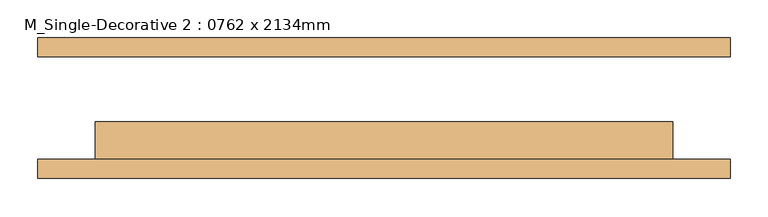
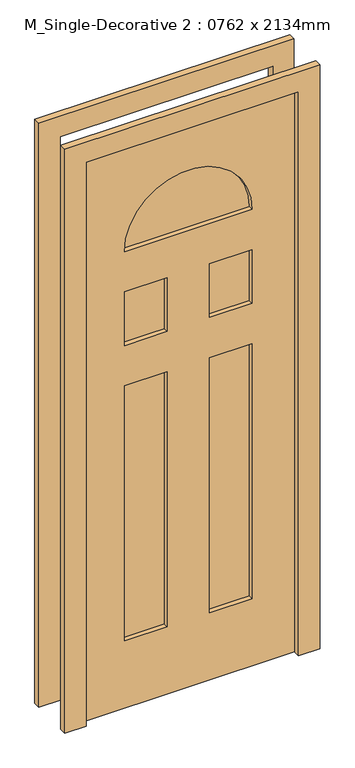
"""IFC4 building model written with IfcOpenShell, lengths in millimetres: door geometry, M_Single-Decorative 2 : 0762 x 2134mm."""

from ifc_helpers import new_model, si_unit, point, frame, frame_2d, origin, place, context, project, spatial, polyline, circle_curve, trimmed, segment, composite_curve, outline, extrude, source, transform, mapped, element, save


def m_single_decorative_2_0762_x_2134mm_0d0af7cb(model_context):
    return source(origin(), model_context, "Body", "SweptSolid", [
        extrude(outline(polyline([(2134.0, 381.0), (2134.0, -381.0), (0.0, -381.0), (0.0, 381.0), (2134.0, 381.0)]), holes=[polyline([(1219.3, -76.2), (254.0, -76.2), (254.0, -228.6), (1219.3, -228.6), (1219.3, -76.2)]), polyline([(1219.3, 228.6), (254.0, 228.6), (254.0, 76.2), (1219.3, 76.2), (1219.3, 228.6)]), polyline([(1371.7, -76.2), (1371.7, -228.6), (1574.9, -228.6), (1574.9, -76.2), (1371.7, -76.2)]), polyline([(1574.9, 76.2), (1574.9, 228.6), (1371.7, 228.6), (1371.7, 76.2), (1574.9, 76.2)]), composite_curve([segment(polyline([(1727.3, 228.6), (1727.3, -228.6)]), True, "CONTINUOUS"), segment(trimmed(circle_curve(frame_2d((1727.3, 0.0)), 228.6), [point((1727.3, -228.6))], [point((1727.3, 228.6))], True, "CARTESIAN"), True, "CONTINUOUS")], self_intersect=False)]), frame((0.0, -67.75, 0.0), z_axis=(0.0, 1.0, 0.0), x_axis=(0.0, 0.0, 1.0)), (0.0, 0.0, 1.0), 50.0),
        extrude(outline(polyline([(0.0, 381.0), (0.0, 457.0), (2210.0, 457.0), (2210.0, -457.0), (0.0, -457.0), (0.0, -381.0), (2134.0, -381.0), (2134.0, 381.0), (0.0, 381.0)])), frame((0.0, 67.75, 0.0), z_axis=(0.0, 1.0, 0.0), x_axis=(0.0, 0.0, 1.0)), (0.0, 0.0, 1.0), 25.0),
        extrude(outline(polyline([(2210.0, -457.0), (0.0, -457.0), (0.0, -381.0), (2134.0, -381.0), (2134.0, 381.0), (0.0, 381.0), (0.0, 457.0), (2210.0, 457.0), (2210.0, -457.0)])), frame((0.0, -92.75, 0.0), z_axis=(0.0, 1.0, 0.0), x_axis=(0.0, 0.0, 1.0)), (0.0, 0.0, 1.0), 25.0),
        extrude(outline(composite_curve([segment(trimmed(circle_curve(frame_2d((1727.3, 0.0)), 228.6), [point((1727.3, 228.6))], [point((1727.3, -228.6))], False, "CARTESIAN"), True, "CONTINUOUS"), segment(polyline([(1727.3, -228.6), (1727.3, 228.6)]), True, "CONTINUOUS")], self_intersect=False)), frame((0.0, -51.0833333, 0.0), z_axis=(0.0, 1.0, 0.0), x_axis=(0.0, 0.0, 1.0)), (0.0, 0.0, 1.0), 16.6666667),
        extrude(outline(polyline([(-228.6, -51.0833333), (-228.6, -34.4166667), (-76.2, -34.4166667), (-76.2, -51.0833333), (-228.6, -51.0833333)])), frame((0.0, 0.0, 254.0), z_axis=(0.0, 0.0, 1.0), x_axis=(1.0, 0.0, 0.0)), (0.0, 0.0, 1.0), 965.3),
        extrude(outline(polyline([(76.2, -51.0833333), (76.2, -34.4166667), (228.6, -34.4166667), (228.6, -51.0833333), (76.2, -51.0833333)])), frame((0.0, 0.0, 254.0), z_axis=(0.0, 0.0, 1.0), x_axis=(1.0, 0.0, 0.0)), (0.0, 0.0, 1.0), 965.3),
        extrude(outline(polyline([(76.2, -51.0833333), (76.2, -34.4166667), (228.6, -34.4166667), (228.6, -51.0833333), (76.2, -51.0833333)])), frame((0.0, 0.0, 1371.7), z_axis=(0.0, 0.0, 1.0), x_axis=(1.0, 0.0, 0.0)), (0.0, 0.0, 1.0), 203.2),
        extrude(outline(polyline([(-228.6, -51.0833333), (-228.6, -34.4166667), (-76.2, -34.4166667), (-76.2, -51.0833333), (-228.6, -51.0833333)])), frame((0.0, 0.0, 1371.7), z_axis=(0.0, 0.0, 1.0), x_axis=(1.0, 0.0, 0.0)), (0.0, 0.0, 1.0), 203.2),
    ])


if __name__ == "__main__":
    model = new_model("IFC4")
    model_context = context("Model", 3, world=origin())
    ifc_project = project(units=[si_unit("LENGTHUNIT", "METRE", prefix="MILLI")], contexts=[model_context])
    site = spatial("IfcSite", under=ifc_project)
    building = spatial("IfcBuilding", under=site)
    placement = place(None, origin())
    m_single_decorative_2_0762_x_2134mm_shape = m_single_decorative_2_0762_x_2134mm_0d0af7cb(model_context)
    element("IfcDoor", 1, ObjectType="M_Single-Decorative 2 : 0762 x 2134mm", at=placement, inside=building, context=model_context, shape_type="MappedRepresentation", body=[
        mapped(m_single_decorative_2_0762_x_2134mm_shape, transform((0.0, 0.0, 0.0), x_axis=(1.0, 0.0, 0.0), y_axis=(0.0, 1.0, 0.0), z_axis=(0.0, 0.0, 1.0))),
    ])
    save(model, "model.ifc")
